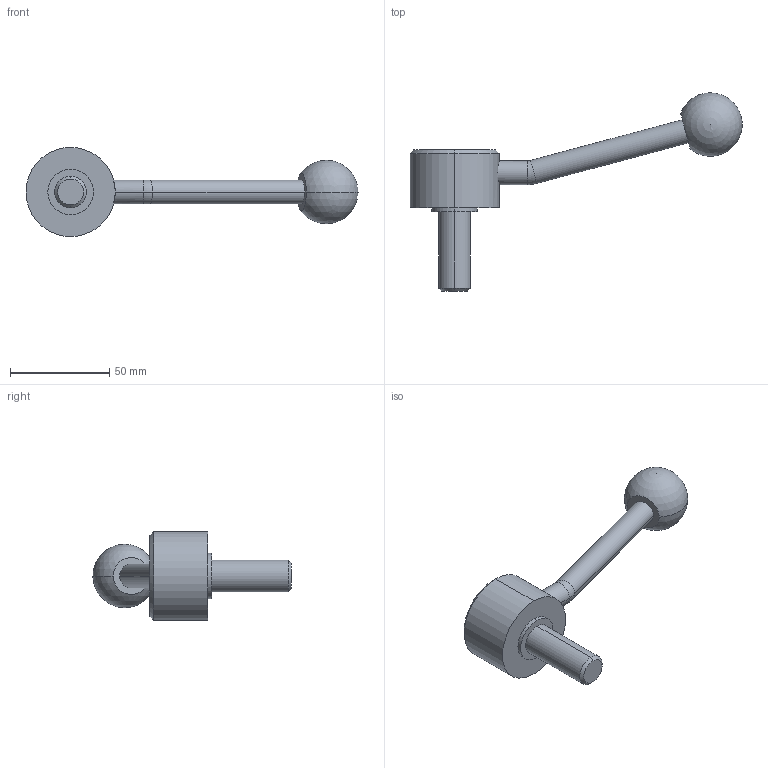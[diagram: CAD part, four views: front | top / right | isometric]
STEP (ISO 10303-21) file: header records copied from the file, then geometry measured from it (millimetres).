
FILE_DESCRIPTION (( 'STEP AP214' ), '1' );
FILE_NAME ('125.5-45-M16-40-E.step', '2020-02-18T11:43:46', ( '' ), ( '' ), 'SwSTEP 2.0', 'SolidWorks 2019', '' );
FILE_SCHEMA (( 'AUTOMOTIVE_DESIGN' ));
Length unit declared in the file: millimetre
Products named in the file (1): 125.5-45-M16-40-E
Bounding box: 167.44 x 99.99 x 45 mm (x, y, z)
Volume: 82827.9 mm3; surface area: 15882.9 mm2
Topology: 1 solids, 1 shells, 26 faces, 55 edges, 34 vertices
Faces by surface type: cylinder 12, plane 6, cone 4, torus 2, sphere 2
Entity records: 850 total; most frequent: CARTESIAN_POINT 192, DIRECTION 134, ORIENTED_EDGE 100, AXIS2_PLACEMENT_3D 59, EDGE_CURVE 50, CIRCLE 32, VERTEX_POINT 31, EDGE_LOOP 31
